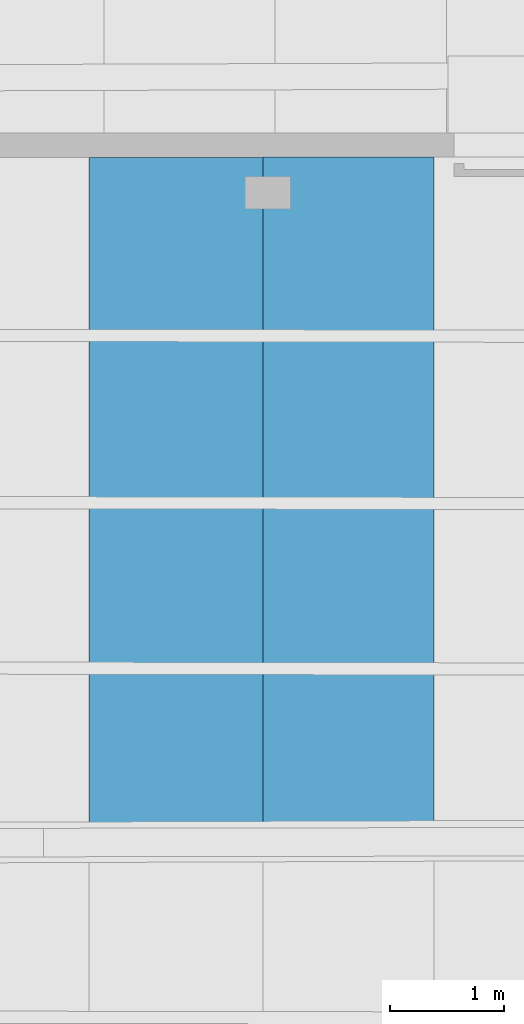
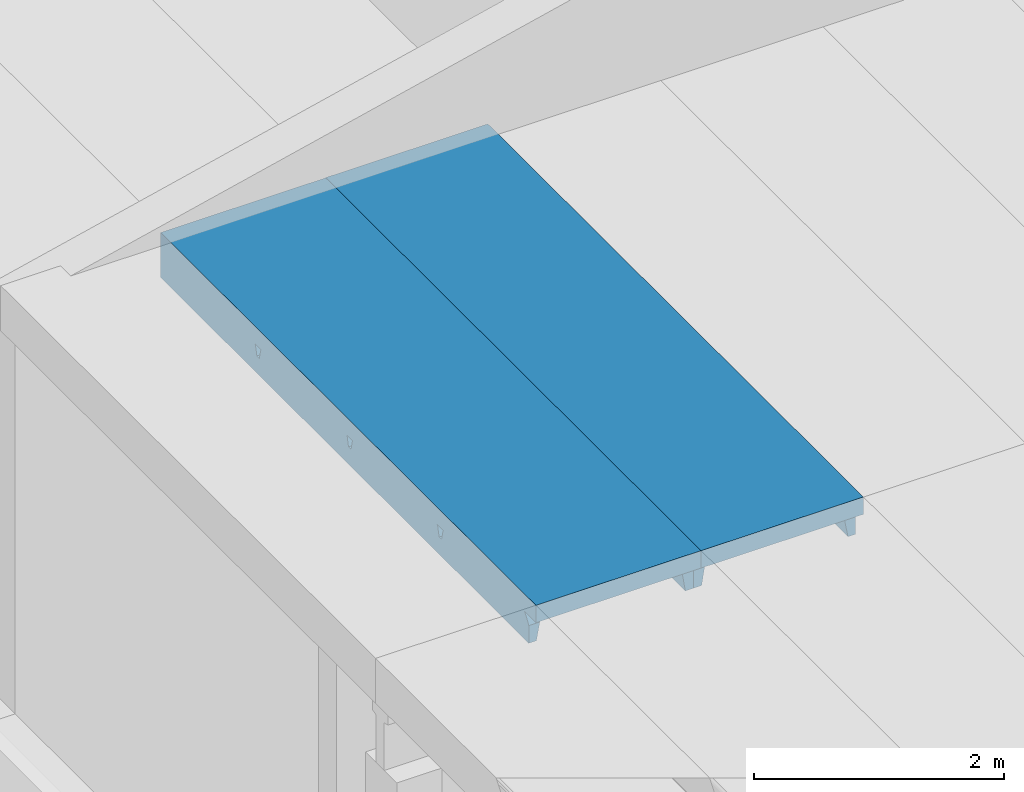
# One storey, part 53 of 301: 2 beams.
"""IFC2X3 building model written with IfcOpenShell, lengths in millimetres."""

from ifc_helpers import new_model, entity, si_unit, converted_unit, derived_unit, money_unit, direction, frame, origin_with_axes, place, context, subcontext, project, spatial, faceted_brep, material, type_object, element, save


model = new_model("IFC2X3")

# Units and contexts
model_context = context("Model", 3, precision=0.01, world=origin_with_axes(), true_north=direction((0.0, 1.0)))
body_context = subcontext(model_context, "Body", "Model", "MODEL_VIEW")
ifc_project = project(units=[si_unit("LENGTHUNIT", "METRE", prefix="MILLI"), si_unit("AREAUNIT", "SQUARE_METRE"), si_unit("VOLUMEUNIT", "CUBIC_METRE"), converted_unit("PLANEANGLEUNIT", "DEGREE", entity("IfcPlaneAngleMeasure", 0.0174532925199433), si_unit("PLANEANGLEUNIT", "RADIAN"), dimensions=[0, 0, 0, 0, 0, 0, 0]), money_unit("EUR"), converted_unit("TIMEUNIT", "Year", entity("IfcTimeMeasure", 31557600.0), si_unit("TIMEUNIT", "SECOND"), dimensions=[0, 0, 1, 0, 0, 0, 0]), si_unit("MASSUNIT", "GRAM", prefix="KILO"), si_unit("THERMODYNAMICTEMPERATUREUNIT", "DEGREE_CELSIUS"), si_unit("LUMINOUSINTENSITYUNIT", "LUMEN"), si_unit("ENERGYUNIT", "JOULE", prefix="MEGA"), derived_unit("THERMALCONDUCTANCEUNIT", [(si_unit("POWERUNIT", "WATT"), 1), (si_unit("LENGTHUNIT", "METRE"), -1), (si_unit("THERMODYNAMICTEMPERATUREUNIT", "KELVIN"), -1)]), derived_unit("SPECIFICHEATCAPACITYUNIT", [(si_unit("ENERGYUNIT", "JOULE"), 1), (si_unit("MASSUNIT", "GRAM", prefix="KILO"), -1), (si_unit("THERMODYNAMICTEMPERATUREUNIT", "KELVIN"), -1)]), derived_unit("MASSDENSITYUNIT", [(si_unit("MASSUNIT", "GRAM", prefix="KILO"), 1), (si_unit("VOLUMEUNIT", "CUBIC_METRE"), -1)])], contexts=[model_context])

# Site, building, storey
site_placement = place(None, frame((0.0, 0.0, 8650.0), z_axis=(0.0, 0.0, 1.0), x_axis=(1.0, 0.0, 0.0)))
site = spatial("IfcSite", under=ifc_project, at=site_placement, Name="43301:001:0844", CompositionType="ELEMENT")
building_placement = place(site_placement, origin_with_axes())
building = spatial("IfcBuilding", under=site, at=building_placement, Name="Kuressaare Ametikooli tuulikute mehaanikute õppekorpus", CompositionType="ELEMENT")
storey_placement = place(building_placement, origin_with_axes())
storey = spatial("IfcBuildingStorey", under=building, at=storey_placement, Name="1.korrus", CompositionType="ELEMENT", Elevation=0.0)

# Beams
ifc_material = material(Name="GENEERILINE - KONSTRUKTRIOON")
beam_type_1 = type_object("IfcBeamType", Name="Precast Double Tee 2 1500 x 440", PredefinedType="NOTDEFINED")
beam_1_placement = place(storey_placement, frame((91975.87775377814, 62106.95706771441, 7100.0), z_axis=(0.0, 0.0, 1.0), x_axis=(-1.0, 0.0, 0.0)))
element("IfcBeam", 1, at=beam_1_placement, inside=storey, type_object=beam_type_1, material=ifc_material, context=body_context, shape_type="Brep", body=[
    faceted_brep([(750.0, 0.0, -440.0001340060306), (750.0, 5892.243216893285, -440.0001340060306), (750.0, 5892.242694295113, -267.4324731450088), (750.0, 5866.650538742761, -222.3718133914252), (750.0, 5834.97785666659, -181.3563625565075), (750.0, 5824.01523777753, -169.8235046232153), (750.0, 6013.245527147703, -169.8235046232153), (750.0, 6013.245527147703, 0.0), (750.0, 0.0, 0.0), (750.0, 1611.895284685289, -175.3978342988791), (750.0, 1607.320665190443, -184.1936973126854), (750.0, 1586.580679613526, -271.7709778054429), (750.0, 1546.580625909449, -271.7709778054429), (750.0, 1525.83967856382, -184.1935020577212), (750.0, 1521.265038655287, -175.3977593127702), (750.0, 1513.066247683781, -169.8234995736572), (750.0, 1620.094142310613, -169.8234995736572), (750.0, 3074.770838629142, -184.1936973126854), (750.0, 3054.030853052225, -271.7709778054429), (750.0, 3014.030799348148, -271.7709778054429), (750.0, 2993.289852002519, -184.1935020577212), (750.0, 2988.715212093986, -175.3977593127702), (750.0, 2980.516421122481, -169.8234995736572), (750.0, 3087.544315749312, -169.8234995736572), (750.0, 3079.345458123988, -175.3978342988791), (750.0, 4504.821203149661, -271.7709778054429), (750.0, 4464.821149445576, -271.7709778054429), (750.0, 4444.080202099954, -184.1935020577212), (750.0, 4439.505562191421, -175.3977593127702), (750.0, 4431.306771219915, -169.8234995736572), (750.0, 4538.334665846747, -169.8234995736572), (750.0, 4530.135808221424, -175.3978342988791), (750.0, 4525.561188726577, -184.1936973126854), (674.9999969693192, 0.0, -440.0001340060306), (674.9999969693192, 5891.973180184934, -440.0001340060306), (647.848808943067, 5891.874900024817, -267.4324731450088), (640.7591234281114, 5866.25721813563, -222.3718133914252), (640.3274701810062, 5864.137093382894, -219.6283094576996), (634.3038197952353, 5849.07039580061, -200.1453415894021), (621.7526411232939, 5836.61349132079, -184.072435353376), (617.2693620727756, 5834.49996142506, -181.3563625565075), (604.310838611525, 5826.990904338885, -173.5057932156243), (584.2531439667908, 5823.418467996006, -169.8235046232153), (584.2531439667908, 6013.245527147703, -169.8235046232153), (-750.0, 6013.245527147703, -169.8235046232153), (-750.0, 6013.245527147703, 0.0), (-586.8200850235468, 6013.245527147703, -169.8235046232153), (-750.0, 0.0, 0.0), (604.310838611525, 0.0, -173.5057932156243), (621.7526411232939, 0.0, -184.072435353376), (634.3038197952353, 0.0, -200.1453415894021), (640.3274701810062, 0.0, -219.6283094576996), (-750.0, 0.0, -440.0001340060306), (-680.0000000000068, 0.0, -440.0001340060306), (-638.1842783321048, 0.0, -210.1386333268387), (-631.9095256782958, 0.0, -193.5336498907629), (-620.1516209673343, 0.0, -180.2351660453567), (-604.4404036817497, 0.0, -171.9734684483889), (-586.8200850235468, 0.0, -169.8234995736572), (584.2531439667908, 0.0, -169.8234995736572), (621.7526411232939, 1607.593885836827, -184.072435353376), (621.8473334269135, 1607.530663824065, -184.1936973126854), (607.4339316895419, 1612.128901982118, -175.3978342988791), (640.3274701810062, 1599.108783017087, -219.6283094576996), (648.531413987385, 1586.746952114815, -271.7709778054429), (634.3038197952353, 1603.732595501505, -200.1453415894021), (648.531413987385, 1546.746898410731, -271.7709778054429), (640.3274701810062, 1534.41140935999, -219.6283094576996), (634.3038197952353, 1529.807134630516, -200.1453415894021), (621.847180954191, 1526.04967744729, -184.1935020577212), (607.4338079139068, 1521.498656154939, -175.3977593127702), (621.7526411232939, 1525.98686592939, -184.072435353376), (584.2531439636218, 1513.33785040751, -169.8234995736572), (604.310838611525, 1518.721012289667, -173.5057932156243), (584.2531439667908, 1620.365745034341, -169.8234995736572), (604.310838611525, 1614.916876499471, -173.5057932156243), (648.531413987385, 3054.197125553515, -271.7709778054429), (621.8473334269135, 3074.980837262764, -184.1936973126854), (634.3038197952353, 3071.182768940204, -200.1453415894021), (640.3274701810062, 3066.558956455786, -219.6283094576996), (648.531413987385, 3014.197071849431, -271.7709778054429), (640.3274701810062, 3001.861582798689, -219.6283094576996), (634.3038197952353, 2997.257308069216, -200.1453415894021), (621.8471809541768, 2993.499850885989, -184.1935020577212), (621.7526411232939, 2993.437039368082, -184.072435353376), (607.4338079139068, 2988.948829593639, -175.3977593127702), (604.310838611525, 2986.171185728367, -173.5057932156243), (584.2531439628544, 2980.788023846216, -169.8234995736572), (584.2531439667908, 3087.815918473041, -169.8234995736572), (607.4339316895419, 3079.579075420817, -175.3978342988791), (604.310838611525, 3082.367049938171, -173.5057932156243), (621.7526411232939, 3075.044059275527, -184.072435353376), (648.531413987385, 4504.98747565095, -271.7709778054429), (648.531413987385, 4464.987421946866, -271.7709778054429), (640.3274701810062, 4452.651932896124, -219.6283094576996), (634.3038197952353, 4448.047658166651, -200.1453415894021), (621.8471809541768, 4444.290200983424, -184.1935020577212), (621.7526411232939, 4444.227389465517, -184.072435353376), (607.4338079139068, 4439.739179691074, -175.3977593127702), (604.310838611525, 4436.961535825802, -173.5057932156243), (584.2531439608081, 4431.578373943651, -169.8234995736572), (584.2531439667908, 4538.606268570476, -169.8234995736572), (604.310838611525, 4533.157400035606, -173.5057932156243), (607.4339316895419, 4530.369425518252, -175.3978342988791), (621.7526411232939, 4525.834409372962, -184.072435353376), (621.8473334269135, 4525.771187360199, -184.1936973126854), (634.3038197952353, 4521.97311903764, -200.1453415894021), (640.3274701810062, 4517.349306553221, -219.6283094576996), (-586.8200850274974, 2982.707014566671, -169.8234995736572), (-586.8200850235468, 3089.734909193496, -169.8234995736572), (-586.8200850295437, 4433.497364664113, -169.8234995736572), (-586.8200850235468, 4540.525259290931, -169.8234995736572), (-586.8200850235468, 5819.202031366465, -169.8235046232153), (-586.8200850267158, 1515.256841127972, -169.8234995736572), (-586.8200850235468, 1622.284735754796, -169.8234995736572), (-750.0, 5818.614503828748, -169.8235046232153), (-750.0, 5829.577122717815, -181.3563625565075), (-750.0, 5861.249804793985, -222.3718133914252), (-750.0, 5886.841960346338, -267.4324731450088), (-750.0, 5886.842482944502, -440.0001340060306), (-750.0, 1528.297668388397, -184.1935020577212), (-750.0, 1549.03861573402, -271.7709778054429), (-750.0, 1589.038669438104, -271.7709778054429), (-750.0, 1609.77865501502, -184.1936973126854), (-750.0, 1614.353274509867, -175.3978342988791), (-750.0, 1622.552132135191, -169.8234995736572), (-750.0, 1515.524237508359, -169.8234995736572), (-750.0, 1523.723028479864, -175.3977593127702), (-750.0, 3016.488789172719, -271.7709778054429), (-750.0, 3056.488842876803, -271.7709778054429), (-750.0, 3077.22882845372, -184.1936973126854), (-750.0, 3081.803447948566, -175.3978342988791), (-750.0, 3090.00230557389, -169.8234995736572), (-750.0, 2982.974410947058, -169.8234995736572), (-750.0, 2991.173201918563, -175.3977593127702), (-750.0, 2995.747841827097, -184.1935020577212), (-750.0, 4507.279192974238, -271.7709778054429), (-750.0, 4528.019178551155, -184.1936973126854), (-750.0, 4532.593798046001, -175.3978342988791), (-750.0, 4540.792655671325, -169.8234995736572), (-750.0, 4433.764761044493, -169.8234995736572), (-750.0, 4441.963552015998, -175.3977593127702), (-750.0, 4446.538191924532, -184.1935020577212), (-750.0, 4467.279139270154, -271.7709778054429), (-680.0000000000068, 5887.09451719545, -440.0001340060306), (-640.409702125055, 5861.644383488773, -222.3718133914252), (-638.1842783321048, 5852.205770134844, -210.1386333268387), (-638.1842783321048, 4521.691690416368, -210.1386333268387), (-649.3962514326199, 4507.114337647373, -271.7709778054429), (-649.3962514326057, 4467.114283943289, -271.7709778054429), (-638.1842783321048, 4452.499541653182, -210.1386333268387), (-638.1842783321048, 3070.901340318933, -210.1386333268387), (-649.3962514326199, 3056.323987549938, -271.7709778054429), (-649.3962514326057, 3016.323933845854, -271.7709778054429), (-638.1842783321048, 3001.709191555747, -210.1386333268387), (-638.1842783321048, 1603.451166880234, -210.1386333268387), (-649.3962514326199, 1588.873814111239, -271.7709778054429), (-649.3962514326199, 1548.873760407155, -271.7709778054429), (-638.1842783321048, 1534.259018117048, -210.1386333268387), (-648.6070035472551, 5887.207024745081, -267.4324731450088), (-631.9095256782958, 1530.31618267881, -193.5336498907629), (-620.1516209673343, 1526.026172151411, -180.2351660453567), (-623.651398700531, 1528.090626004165, -184.1935020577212), (-604.4404036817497, 1518.44795452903, -171.9734684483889), (-610.9523556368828, 1523.495176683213, -175.3977593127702), (-604.4404036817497, 3086.601560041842, -171.9734684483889), (-604.4404036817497, 4436.688478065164, -171.9734684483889), (-604.4404036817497, 5821.182249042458, -171.9734684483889), (-604.4404036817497, 4537.391910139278, -171.9734684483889), (-604.4404036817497, 1619.151386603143, -171.9734684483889), (-604.4404036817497, 2985.898127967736, -171.9734684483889), (-620.1516209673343, 5828.978881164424, -180.2351660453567), (-621.1429310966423, 5830.041071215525, -181.3563625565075), (-631.90952567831, 5839.405771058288, -193.5336498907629), (-631.9095256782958, 1607.373264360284, -193.5336498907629), (-623.651571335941, 1609.571612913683, -184.1936973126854), (-620.1516209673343, 1611.624660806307, -180.2351660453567), (-610.9524982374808, 1614.125422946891, -175.3978342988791), (-631.9095256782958, 3074.823437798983, -193.5336498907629), (-623.651571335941, 3077.021786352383, -184.1936973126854), (-620.1516209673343, 3079.074834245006, -180.2351660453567), (-610.9524982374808, 3081.575596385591, -175.3978342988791), (-610.9523556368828, 2990.945350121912, -175.3977593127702), (-620.1516209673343, 2993.476345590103, -180.2351660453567), (-623.651398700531, 2995.540799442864, -184.1935020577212), (-631.9095256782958, 2997.766356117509, -193.5336498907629), (-631.90952567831, 4525.613787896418, -193.5336498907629), (-623.651571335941, 4527.812136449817, -184.1936973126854), (-620.1516209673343, 4529.865184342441, -180.2351660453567), (-610.9524982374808, 4532.365946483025, -175.3978342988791), (-610.9523556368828, 4441.735700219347, -175.3977593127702), (-620.1516209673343, 4444.266695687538, -180.2351660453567), (-623.651398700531, 4446.3311495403, -184.1935020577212), (-631.9095256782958, 4448.556706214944, -193.5336498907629)], [[[0, 1, 2, 3, 4, 5, 6, 7, 8], [9, 10, 11, 12, 13, 14, 15, 16], [17, 18, 19, 20, 21, 22, 23, 24], [25, 26, 27, 28, 29, 30, 31, 32]], [[33, 34, 1, 0]], [[1, 34, 35, 2]], [[2, 35, 36, 3]], [[4, 3, 36, 37, 38, 39, 40]], [[41, 42, 5, 4, 40]], [[5, 42, 43, 6]], [[44, 45, 7, 6, 43, 46]], [[47, 8, 7, 45]], [[48, 49, 50, 51, 33, 0, 8, 47, 52, 53, 54, 55, 56, 57, 58, 59]], [[60, 61, 10, 9, 62]], [[63, 64, 11, 10, 61, 65]], [[64, 66, 12, 11]], [[13, 12, 66, 67, 68, 69]], [[70, 14, 13, 69, 71]], [[72, 15, 14, 70, 73]], [[72, 74, 16, 15]], [[75, 62, 9, 16, 74]], [[76, 18, 17, 77, 78, 79]], [[80, 19, 18, 76]], [[19, 80, 81, 82, 83, 20]], [[21, 20, 83, 84, 85]], [[22, 21, 85, 86, 87]], [[88, 23, 22, 87]], [[89, 24, 23, 88, 90]], [[77, 17, 24, 89, 91]], [[26, 25, 92, 93]], [[93, 94, 95, 96, 27, 26]], [[27, 96, 97, 98, 28]], [[28, 98, 99, 100, 29]], [[30, 29, 100, 101]], [[31, 30, 101, 102, 103]], [[32, 31, 103, 104, 105]], [[25, 32, 105, 106, 107, 92]], [[94, 93, 92, 107, 37, 36, 35, 34, 33, 51, 67, 66, 64, 63, 81, 80, 76, 79]], [[38, 37, 107, 106]], [[38, 106, 105, 104, 39]], [[39, 104, 103, 102, 41, 40]], [[42, 41, 102, 101]], [[108, 109, 110, 111, 112, 46, 43, 42, 101, 100, 88, 87, 74, 72, 59, 58, 113, 114]], [[45, 44, 115, 116, 117, 118, 119, 52, 47], [120, 121, 122, 123, 124, 125, 126, 127], [128, 129, 130, 131, 132, 133, 134, 135], [136, 137, 138, 139, 140, 141, 142, 143]], [[112, 115, 44, 46]], [[71, 49, 48, 73, 70]], [[68, 50, 49, 71, 69]], [[68, 67, 51, 50]], [[52, 119, 144, 53]], [[145, 146, 147, 148, 149, 150, 151, 152, 153, 154, 155, 156, 157, 158, 54, 53, 144, 159]], [[158, 160, 55, 54]], [[161, 56, 55, 160, 162]], [[163, 57, 56, 161, 164]], [[163, 113, 58, 57]], [[72, 73, 48, 59]], [[61, 60, 84, 83, 82, 65]], [[62, 75, 86, 85, 84, 60]], [[81, 63, 65, 82]], [[86, 75, 74, 87]], [[91, 97, 96, 95, 78, 77]], [[79, 78, 95, 94]], [[90, 88, 100, 99]], [[90, 99, 98, 97, 91, 89]], [[132, 109, 108, 133]], [[109, 165, 166, 110]], [[111, 110, 140, 139]], [[167, 112, 111, 168]], [[126, 125, 114, 113]], [[108, 114, 169, 170]], [[115, 112, 167, 171, 172, 116]], [[116, 172, 173, 146, 145, 117]], [[159, 118, 117, 145]], [[144, 119, 118, 159]], [[162, 160, 158, 157, 121, 120]], [[122, 121, 157, 156]], [[156, 155, 174, 175, 123, 122]], [[123, 175, 176, 177, 124]], [[124, 177, 169, 114, 125]], [[126, 113, 163, 164, 127]], [[127, 164, 161, 162, 120]], [[128, 153, 152, 129]], [[151, 178, 179, 130, 129, 152]], [[179, 180, 181, 131, 130]], [[181, 165, 109, 132, 131]], [[108, 170, 182, 134, 133]], [[182, 183, 184, 135, 134]], [[185, 154, 153, 128, 135, 184]], [[186, 187, 137, 136, 148, 147]], [[188, 189, 138, 137, 187]], [[168, 111, 139, 138, 189]], [[166, 190, 141, 140, 110]], [[191, 192, 142, 141, 190]], [[150, 149, 143, 142, 192, 193]], [[149, 148, 136, 143]], [[146, 173, 186, 147]], [[178, 151, 150, 193]], [[185, 174, 155, 154]], [[180, 191, 190, 166, 165, 181]], [[167, 168, 189, 188, 171]], [[177, 176, 183, 182, 170, 169]], [[171, 188, 187, 186, 173, 172]], [[175, 174, 185, 184, 183, 176]], [[178, 193, 192, 191, 180, 179]]]),
])
beam_type_2 = type_object("IfcBeamType", Name="Precast Double Tee 2 1527 x 440", PredefinedType="NOTDEFINED")
beam_2_placement = place(storey_placement, frame((90462.31710030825, 62104.33692672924, 7100.0), z_axis=(0.0, 0.0, 1.0), x_axis=(-1.0, 0.0, 0.0)))
element("IfcBeam", 2, at=beam_2_placement, inside=storey, type_object=beam_type_2, material=ifc_material, context=body_context, shape_type="Brep", body=[
    faceted_brep([(763.5606534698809, 0.0, -440.0001340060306), (763.5606534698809, 5895.12145983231, -440.0001340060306), (763.5606534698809, 5895.120937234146, -267.4324731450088), (763.5606534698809, 5869.528781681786, -222.3718133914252), (763.5606534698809, 5837.856099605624, -181.3563625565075), (763.5606534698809, 5826.893480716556, -169.8235046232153), (763.5606534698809, 6009.664014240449, -169.8235046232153), (763.5606534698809, 6009.664014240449, 0.0), (763.5606534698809, 0.0, 0.0), (763.5606534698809, 1606.772711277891, -175.3978342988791), (763.5606534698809, 1602.198091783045, -184.1936973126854), (763.5606534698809, 1581.458106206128, -271.7709778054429), (763.5606534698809, 1541.458052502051, -271.7709778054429), (763.5606534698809, 1520.717105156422, -184.1935020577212), (763.5606534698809, 1516.142465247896, -175.3977593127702), (763.5606534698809, 1507.94367427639, -169.8234995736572), (763.5606534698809, 1614.971568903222, -169.8234995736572), (763.5606534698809, 3069.648265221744, -184.1936973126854), (763.5606534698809, 3048.908279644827, -271.7709778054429), (763.5606534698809, 3008.908225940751, -271.7709778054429), (763.5606534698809, 2988.167278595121, -184.1935020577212), (763.5606534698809, 2983.592638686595, -175.3977593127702), (763.5606534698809, 2975.39384771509, -169.8234995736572), (763.5606534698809, 3082.421742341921, -169.8234995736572), (763.5606534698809, 3074.222884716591, -175.3978342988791), (763.5606534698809, 4499.698629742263, -271.7709778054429), (763.5606534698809, 4459.698576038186, -271.7709778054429), (763.5606534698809, 4438.957628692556, -184.1935020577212), (763.5606534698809, 4434.38298878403, -175.3977593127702), (763.5606534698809, 4426.184197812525, -169.8234995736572), (763.5606534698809, 4533.212092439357, -169.8234995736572), (763.5606534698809, 4525.013234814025, -175.3978342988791), (763.5606534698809, 4520.438615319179, -184.1936973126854), (692.2949924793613, 0.0, -440.0001340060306), (692.2949924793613, 5894.864868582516, -440.0001340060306), (660.3343832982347, 5894.749272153, -267.4324731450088), (651.9888675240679, 5869.127068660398, -222.3718133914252), (649.7230638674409, 5859.671691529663, -210.1378651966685), (644.7992800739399, 5848.791844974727, -196.0716523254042), (635.8579307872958, 5839.552669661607, -184.148806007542), (631.5988124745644, 5837.380972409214, -181.3563625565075), (619.5598957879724, 5829.834721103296, -173.4631810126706), (600.8844705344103, 5826.307766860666, -169.8235046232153), (600.8844705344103, 6009.664014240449, -169.8235046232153), (600.4311136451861, 6009.664014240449, -169.7351493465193), (597.3692682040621, 6009.664014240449, -169.8234995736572), (-594.8169498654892, 6009.664014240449, -169.8235046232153), (-763.5606534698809, 6009.664014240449, -169.8235046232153), (-763.5606534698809, 6009.664014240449, 0.0), (-763.5606534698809, 0.0, 0.0), (644.7992800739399, 0.0, -196.0716523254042), (649.7230638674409, 0.0, -210.1378651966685), (-763.5606534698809, 0.0, -440.0001340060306), (-687.2045850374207, 0.0, -440.0001340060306), (-651.8762025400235, 0.0, -219.4476003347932), (-646.4799073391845, 0.0, -201.5128762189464), (-635.4684781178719, 0.0, -186.3628677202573), (-623.5131529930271, 0.0, -177.3688890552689), (-609.6555344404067, 0.0, -171.7308167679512), (-594.8169498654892, 0.0, -169.8234995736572), (597.3692682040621, 0.0, -169.8234995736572), (600.4311136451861, 0.0, -169.7351493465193), (619.5598957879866, 0.0, -173.4631810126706), (635.8579307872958, 0.0, -184.148806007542), (635.8579307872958, 1602.43070052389, -184.148806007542), (635.8915963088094, 1602.407297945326, -184.1936973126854), (622.5106868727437, 1607.00384419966, -175.3978342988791), (649.7230638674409, 1596.240554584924, -210.1378651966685), (661.1379014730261, 1581.625942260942, -271.7709778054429), (644.7992800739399, 1599.579772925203, -196.0716523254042), (661.1379014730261, 1541.625888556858, -271.7709778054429), (649.7230638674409, 1527.048041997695, -210.1378651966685), (644.7992800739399, 1523.72481342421, -196.0716523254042), (635.8914498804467, 1520.926311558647, -184.1935020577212), (622.510572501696, 1516.373598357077, -175.3977593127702), (635.8579307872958, 1520.90312020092, -184.148806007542), (600.8844446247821, 1508.21024525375, -169.8234995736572), (619.5598957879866, 1513.532996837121, -173.4631810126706), (600.8844446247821, 1615.238139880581, -169.8234995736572), (619.5598957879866, 1609.854211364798, -173.4631810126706), (661.1379014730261, 3049.076115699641, -271.7709778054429), (635.8915963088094, 3069.857471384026, -184.1936973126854), (644.7992800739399, 3067.029946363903, -196.0716523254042), (649.7230638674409, 3063.69072802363, -210.1378651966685), (661.1379014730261, 3009.076061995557, -271.7709778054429), (649.7230638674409, 2994.498215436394, -210.1378651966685), (644.7992800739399, 2991.174986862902, -196.0716523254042), (635.8914498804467, 2988.376484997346, -184.1935020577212), (635.8579307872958, 2988.35329363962, -184.148806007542), (622.5105725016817, 2983.823771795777, -175.3977593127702), (619.5598957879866, 2980.98317027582, -173.4631810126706), (600.8844446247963, 2975.660418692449, -169.8234995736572), (600.8844446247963, 3082.688313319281, -169.8234995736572), (622.5106868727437, 3074.454017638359, -175.3978342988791), (619.5598957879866, 3077.304384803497, -173.4631810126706), (635.8579307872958, 3069.880873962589, -184.148806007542), (661.1379014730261, 4499.866465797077, -271.7709778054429), (661.1379014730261, 4459.866412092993, -271.7709778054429), (649.7230638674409, 4445.28856553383, -210.1378651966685), (644.7992800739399, 4441.965336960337, -196.0716523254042), (635.8914498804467, 4439.166835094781, -184.1935020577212), (635.8579307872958, 4439.143643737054, -184.148806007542), (622.5105725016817, 4434.614121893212, -175.3977593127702), (619.5598957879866, 4431.773520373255, -173.4631810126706), (600.8844446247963, 4426.450768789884, -169.8234995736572), (600.8844446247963, 4533.478663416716, -169.8234995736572), (619.5598957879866, 4528.094734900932, -173.4631810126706), (622.5106868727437, 4525.244367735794, -175.3978342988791), (635.8579307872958, 4520.671224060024, -184.148806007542), (635.8915963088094, 4520.647821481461, -184.1936973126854), (644.7992800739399, 4517.820296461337, -196.0716523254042), (649.7230638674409, 4514.481078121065, -210.1378651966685), (-594.8169498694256, 2977.619766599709, -169.8234995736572), (-594.8169498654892, 3084.647661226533, -169.8234995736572), (-594.8169498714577, 4428.410116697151, -169.8234995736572), (-594.8169498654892, 4535.438011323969, -169.8234995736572), (-594.8169498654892, 5822.002656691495, -169.8235046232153), (-594.816949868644, 1510.16959316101, -169.8234995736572), (-594.8169498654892, 1617.197487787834, -169.8234995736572), (-763.5606534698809, 5821.395096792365, -169.8235046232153), (-763.5606534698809, 5832.357715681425, -181.3563625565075), (-763.5606534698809, 5864.030397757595, -222.3718133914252), (-763.5606534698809, 5889.622553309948, -267.4324731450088), (-763.5606534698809, 5889.623075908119, -440.0001340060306), (-763.5606534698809, 1523.219537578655, -184.1935020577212), (-763.5606534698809, 1543.960484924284, -271.7709778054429), (-763.5606534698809, 1583.960538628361, -271.7709778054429), (-763.5606534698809, 1604.700524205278, -184.1936973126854), (-763.5606534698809, 1609.275143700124, -175.3978342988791), (-763.5606534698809, 1617.474001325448, -169.8234995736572), (-763.5606534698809, 1510.446106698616, -169.8234995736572), (-763.5606534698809, 1518.644897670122, -175.3977593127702), (-763.5606534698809, 3011.410658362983, -271.7709778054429), (-763.5606534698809, 3051.41071206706, -271.7709778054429), (-763.5606534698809, 3072.150697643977, -184.1936973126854), (-763.5606534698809, 3076.725317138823, -175.3978342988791), (-763.5606534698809, 3084.924174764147, -169.8234995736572), (-763.5606534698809, 2977.896280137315, -169.8234995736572), (-763.5606534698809, 2986.095071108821, -175.3977593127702), (-763.5606534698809, 2990.669711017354, -184.1935020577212), (-763.5606534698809, 4502.201062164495, -271.7709778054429), (-763.5606534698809, 4522.941047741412, -184.1936973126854), (-763.5606534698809, 4527.515667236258, -175.3978342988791), (-763.5606534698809, 4535.714524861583, -169.8234995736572), (-763.5606534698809, 4428.686630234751, -169.8234995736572), (-763.5606534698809, 4436.885421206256, -175.3977593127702), (-763.5606534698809, 4441.460061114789, -184.1935020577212), (-763.5606534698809, 4462.201008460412, -271.7709778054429), (-687.2045850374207, 5889.897995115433, -440.0001340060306), (-652.3446066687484, 5864.430829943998, -222.3718133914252), (-651.8762025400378, 5862.174399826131, -219.4476003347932), (-651.8762025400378, 4514.409232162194, -219.4476003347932), (-660.2574270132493, 4502.031783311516, -271.7709778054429), (-660.2574270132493, 4462.031729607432, -271.7709778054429), (-651.8762025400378, 4449.626265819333, -219.4476003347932), (-651.8762025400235, 3063.618882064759, -219.4476003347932), (-660.2574270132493, 3051.241433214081, -271.7709778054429), (-660.2574270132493, 3011.241379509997, -271.7709778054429), (-651.8762025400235, 2998.835915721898, -219.4476003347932), (-651.8762025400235, 1596.16870862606, -219.4476003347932), (-660.2574270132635, 1583.791259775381, -271.7709778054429), (-660.2574270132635, 1543.791206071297, -271.7709778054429), (-651.8762025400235, 1531.385742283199, -219.4476003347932), (-659.5624798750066, 5889.996997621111, -267.4324731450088), (-646.4799073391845, 1527.129424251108, -201.5128762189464), (-635.4684781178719, 1523.523408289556, -186.3628677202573), (-623.5131529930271, 1519.440586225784, -177.3688890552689), (-632.5848297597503, 1523.004912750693, -184.1935020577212), (-609.6555344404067, 1512.999248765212, -171.7308167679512), (-618.6683828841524, 1518.407468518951, -175.3977593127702), (-609.6555344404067, 3081.866651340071, -171.7308167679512), (-609.6555344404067, 4431.239772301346, -171.7308167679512), (-609.6555344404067, 5823.762236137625, -171.7308167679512), (-609.6555344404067, 4532.657001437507, -171.7308167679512), (-609.6555344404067, 1614.416477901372, -171.7308167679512), (-609.6555344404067, 2980.449422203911, -171.7308167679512), (-623.5131529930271, 5829.071641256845, -177.3688890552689), (-628.8135371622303, 5832.84287123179, -181.3563625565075), (-635.4684781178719, 5836.685000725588, -186.3628677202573), (-646.4799073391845, 5848.344394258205, -201.5128762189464), (-646.4799073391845, 1600.407153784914, -201.5128762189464), (-635.4684781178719, 1603.976923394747, -186.3628677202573), (-632.5850893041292, 1604.485899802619, -184.1936973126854), (-623.5131529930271, 1608.020532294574, -177.3688890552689), (-618.6685671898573, 1609.03771485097, -175.3978342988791), (-646.4799073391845, 3067.857327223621, -201.5128762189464), (-635.4684781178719, 3071.427096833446, -186.3628677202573), (-632.5850893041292, 3071.936073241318, -184.1936973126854), (-623.5131529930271, 3075.470705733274, -177.3688890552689), (-618.6685671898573, 3076.48788828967, -175.3978342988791), (-618.6683828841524, 2985.857641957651, -175.3977593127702), (-623.5131529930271, 2986.890759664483, -177.3688890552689), (-632.5848297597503, 2990.455086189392, -184.1935020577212), (-646.4799073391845, 2994.579597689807, -201.5128762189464), (-635.4684781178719, 2990.973581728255, -186.3628677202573), (-635.4684781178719, 4522.217446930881, -186.3628677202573), (-632.5850893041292, 4522.726423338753, -184.1936973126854), (-646.4799073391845, 4518.647677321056, -201.5128762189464), (-623.5131529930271, 4526.261055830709, -177.3688890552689), (-618.6685671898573, 4527.278238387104, -175.3978342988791), (-618.6683828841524, 4436.647992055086, -175.3977593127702), (-623.5131529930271, 4437.681109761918, -177.3688890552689), (-632.5848297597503, 4441.245436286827, -184.1935020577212), (-635.4684781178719, 4441.763931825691, -186.3628677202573), (-646.4799073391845, 4445.369947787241, -201.5128762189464)], [[[0, 1, 2, 3, 4, 5, 6, 7, 8], [9, 10, 11, 12, 13, 14, 15, 16], [17, 18, 19, 20, 21, 22, 23, 24], [25, 26, 27, 28, 29, 30, 31, 32]], [[33, 34, 1, 0]], [[1, 34, 35, 2]], [[2, 35, 36, 3]], [[4, 3, 36, 37, 38, 39, 40]], [[41, 42, 5, 4, 40]], [[5, 42, 43, 6]], [[7, 6, 43, 44, 45, 46, 47, 48]], [[49, 8, 7, 48]], [[50, 51, 33, 0, 8, 49, 52, 53, 54, 55, 56, 57, 58, 59, 60, 61, 62, 63]], [[64, 65, 10, 9, 66]], [[67, 68, 11, 10, 65, 69]], [[68, 70, 12, 11]], [[13, 12, 70, 71, 72, 73]], [[74, 14, 13, 73, 75]], [[76, 15, 14, 74, 77]], [[76, 78, 16, 15]], [[79, 66, 9, 16, 78]], [[80, 18, 17, 81, 82, 83]], [[84, 19, 18, 80]], [[19, 84, 85, 86, 87, 20]], [[21, 20, 87, 88, 89]], [[22, 21, 89, 90, 91]], [[92, 23, 22, 91]], [[93, 24, 23, 92, 94]], [[81, 17, 24, 93, 95]], [[26, 25, 96, 97]], [[97, 98, 99, 100, 27, 26]], [[27, 100, 101, 102, 28]], [[28, 102, 103, 104, 29]], [[30, 29, 104, 105]], [[31, 30, 105, 106, 107]], [[32, 31, 107, 108, 109]], [[25, 32, 109, 110, 111, 96]], [[98, 97, 96, 111, 37, 36, 35, 34, 33, 51, 71, 70, 68, 67, 85, 84, 80, 83]], [[38, 37, 111, 110]], [[38, 110, 109, 108, 39]], [[39, 108, 107, 106, 41, 40]], [[42, 41, 106, 105, 104, 103, 94, 92, 91, 90, 79, 78, 76, 77, 62, 61, 44, 43]], [[61, 60, 45, 44]], [[112, 113, 114, 115, 116, 46, 45, 60, 59, 117, 118]], [[116, 119, 47, 46]], [[48, 47, 119, 120, 121, 122, 123, 52, 49], [124, 125, 126, 127, 128, 129, 130, 131], [132, 133, 134, 135, 136, 137, 138, 139], [140, 141, 142, 143, 144, 145, 146, 147]], [[72, 71, 51, 50]], [[52, 123, 148, 53]], [[149, 150, 151, 152, 153, 154, 155, 156, 157, 158, 159, 160, 161, 162, 54, 53, 148, 163]], [[162, 164, 55, 54]], [[164, 165, 56, 55]], [[166, 57, 56, 165, 167]], [[168, 58, 57, 166, 169]], [[168, 117, 59, 58]], [[75, 63, 62, 77, 74]], [[72, 50, 63, 75, 73]], [[65, 64, 88, 87, 86, 69]], [[66, 79, 90, 89, 88, 64]], [[85, 67, 69, 86]], [[95, 101, 100, 99, 82, 81]], [[83, 82, 99, 98]], [[94, 103, 102, 101, 95, 93]], [[136, 113, 112, 137]], [[113, 170, 171, 114]], [[115, 114, 144, 143]], [[172, 116, 115, 173]], [[130, 129, 118, 117]], [[112, 118, 174, 175]], [[119, 116, 172, 176, 177, 120]], [[177, 178, 179, 150, 149, 121, 120]], [[163, 122, 121, 149]], [[148, 123, 122, 163]], [[165, 164, 162, 161, 125, 124, 167]], [[126, 125, 161, 160]], [[159, 180, 181, 182, 127, 126, 160]], [[127, 182, 183, 184, 128]], [[128, 184, 174, 118, 129]], [[130, 117, 168, 169, 131]], [[131, 169, 166, 167, 124]], [[132, 157, 156, 133]], [[185, 186, 187, 134, 133, 156, 155]], [[187, 188, 189, 135, 134]], [[189, 170, 113, 136, 135]], [[112, 175, 190, 138, 137]], [[190, 191, 192, 139, 138]], [[193, 158, 157, 132, 139, 192, 194]], [[195, 196, 141, 140, 152, 151, 197]], [[198, 199, 142, 141, 196]], [[173, 115, 143, 142, 199]], [[171, 200, 145, 144, 114]], [[201, 202, 146, 145, 200]], [[154, 153, 147, 146, 202, 203, 204]], [[153, 152, 140, 147]], [[150, 179, 197, 151]], [[185, 155, 154, 204]], [[193, 180, 159, 158]], [[188, 201, 200, 171, 170, 189]], [[172, 173, 199, 198, 176]], [[184, 183, 191, 190, 175, 174]], [[176, 198, 196, 195, 178, 177]], [[179, 178, 195, 197]], [[194, 181, 180, 193]], [[182, 181, 194, 192, 191, 183]], [[186, 185, 204, 203]], [[186, 203, 202, 201, 188, 187]]]),
])

save(model, "model.ifc")
